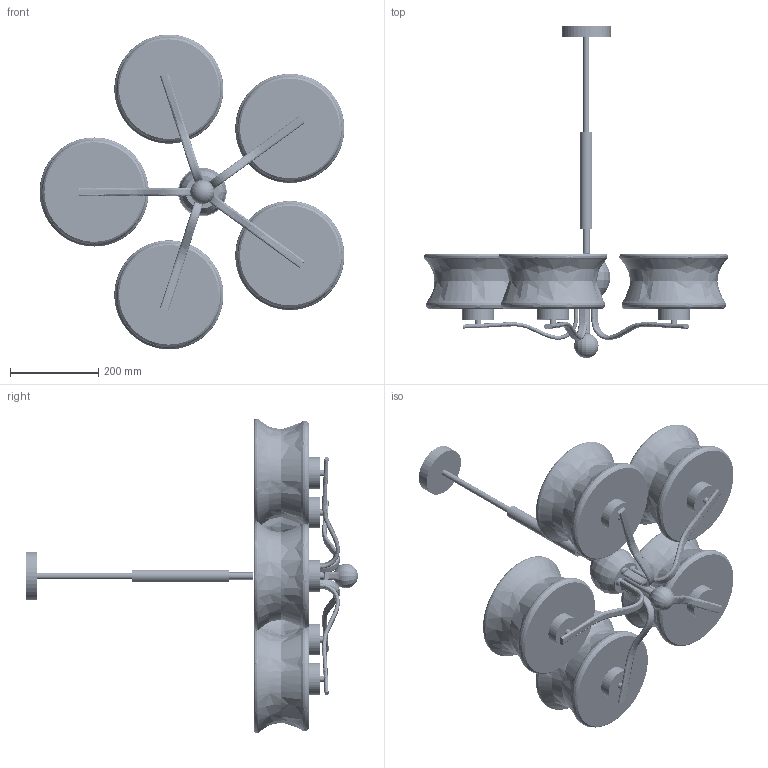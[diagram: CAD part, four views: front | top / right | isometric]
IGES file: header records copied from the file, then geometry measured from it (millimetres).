
Start section: SolidWorks IGES file using analytic representation for surfaces
Global section: file name: F:\燠隴矨\3D\2025-12\Anath Chandelier-5heads.IGS,15; native system: HSolidWorks 2022; preprocessor: SolidWorks 2022; author: MyPC; date: 251204.172201; units: millimetre
Bounding box: 689.19 x 751.61 x 712.7 mm (x, y, z)
Surface area: 1808699.8 mm2 (no closed solid volume)
Topology: 0 solids, 0 shells, 1076 faces, 15450 edges, 15432 vertices
Faces by surface type: revolution 669, bspline 407
